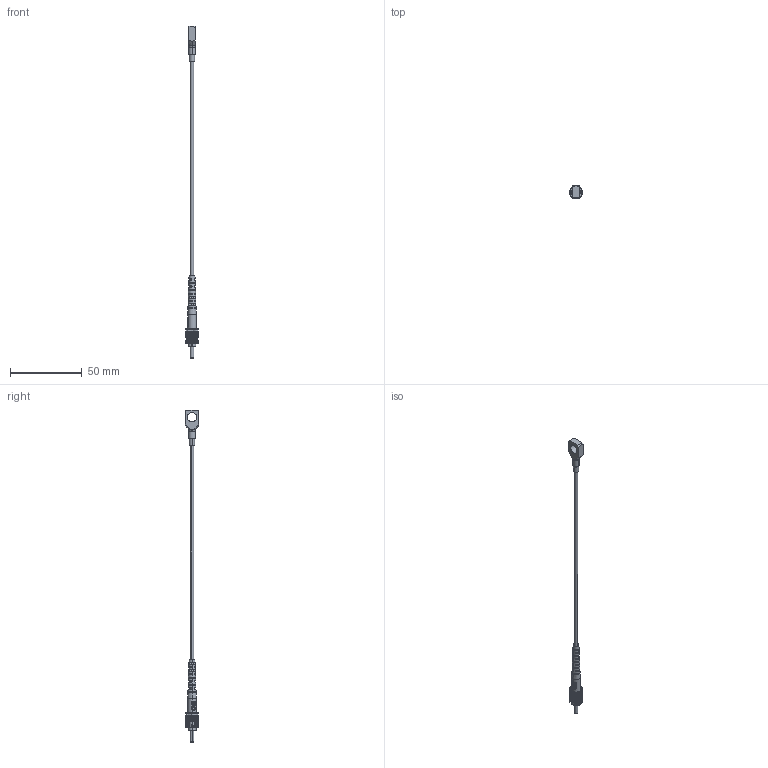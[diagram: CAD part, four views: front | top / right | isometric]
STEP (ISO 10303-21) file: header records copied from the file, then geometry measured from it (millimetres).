
FILE_DESCRIPTION (( 'STEP AP214' ), '1' );
FILE_NAME ('PRB-GB2-TP1.STEP', '2016-01-01T00:24:27', ( 'Daryl' ), ( 'Microsoft' ), 'SwSTEP 2.0', 'SolidWorks 2014', '' );
FILE_SCHEMA (( 'AUTOMOTIVE_DESIGN' ));
Length unit declared in the file: millimetre
Products named in the file (1): PRB-GB2-TP1
Bounding box: 9.02 x 9.5 x 231.29 mm (x, y, z)
Surface area: 3934.9 mm2 (no closed solid volume)
Topology: 0 solids, 8 shells, 588 faces, 1762 edges, 1163 vertices
Faces by surface type: plane 341, cylinder 213, bspline 24, cone 8, torus 2
Entity records: 27816 total; most frequent: CARTESIAN_POINT 5732, ORIENTED_EDGE 3417, DIRECTION 3063, EDGE_CURVE 1762, VERTEX_POINT 1163, VECTOR 1119, LINE 1119, AXIS2_PLACEMENT_3D 972
